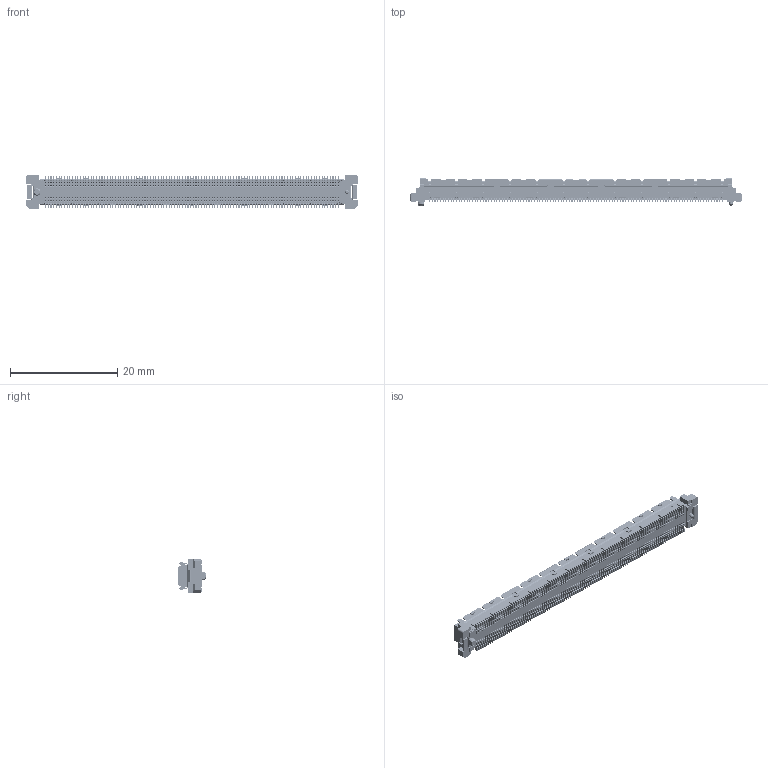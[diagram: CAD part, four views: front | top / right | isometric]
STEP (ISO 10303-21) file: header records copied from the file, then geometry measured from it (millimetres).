
FILE_DESCRIPTION (( 'STEP AP214' ), '1' );
FILE_NAME ('401-51101-5x.STEP', '2018-03-26T08:17:39', ( '' ), ( '' ), 'SwSTEP 2.0', 'SolidWorks 2016', '' );
FILE_SCHEMA (( 'AUTOMOTIVE_DESIGN' ));
Length unit declared in the file: millimetre
Products named in the file (1): 401-51101-5x
Bounding box: 61.8 x 5.05 x 6.2 mm (x, y, z)
Volume: 650.3 mm3; surface area: 2861.7 mm2
Topology: 1 solids, 1 shells, 11149 faces, 32935 edges, 21915 vertices
Faces by surface type: plane 7081, cylinder 4063, cone 5
Entity records: 494433 total; most frequent: CARTESIAN_POINT 67658, ORIENTED_EDGE 65870, DIRECTION 62340, EDGE_CURVE 32935, VECTOR 24730, LINE 24730, VERTEX_POINT 21915, AXIS2_PLACEMENT_3D 18805
